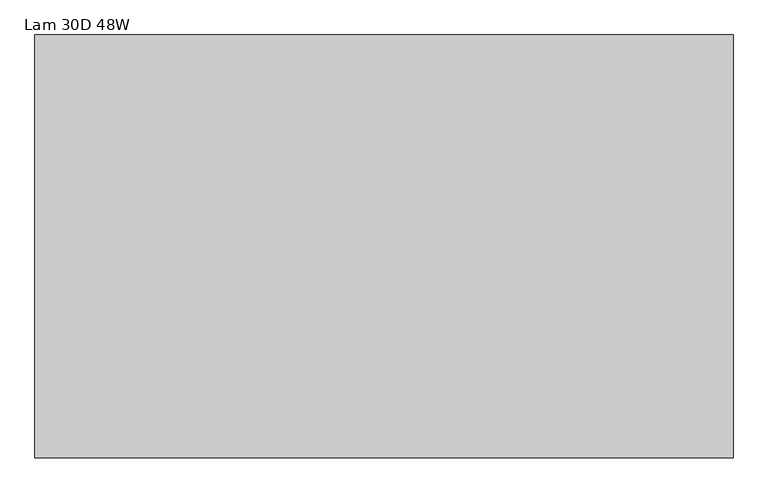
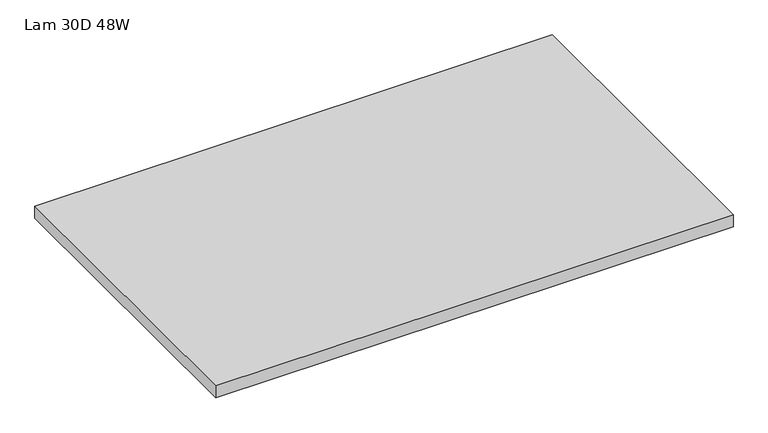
"""IFC4 building model written with IfcOpenShell, lengths in millimetres: furniture geometry, HermanMiller_Ethospace_EWS10_F_Sq-EdgeRectangularSurface_FrameAttached : Lam 30D 48W."""

from ifc_helpers import new_model, si_unit, frame, origin, place, context, project, spatial, polyline, outline, extrude, source, transform, mapped, element, save


def lam_30d_48w_5cb6845a(model_context):
    return source(origin(), model_context, "Body", "SweptSolid", [
        extrude(outline(polyline([(753.5275996, 22.2914812), (-462.6244004, 22.2914812), (-462.6244004, 758.8914812), (753.5275996, 758.8914812), (753.5275996, 22.2914812)])), frame((0.0, 0.0, 706.7296), z_axis=(0.0, 0.0, 1.0), x_axis=(1.0, 0.0, 0.0)), (0.0, 0.0, 1.0), 29.8704),
    ])


if __name__ == "__main__":
    model = new_model("IFC4")
    model_context = context("Model", 3, world=origin())
    ifc_project = project(units=[si_unit("LENGTHUNIT", "METRE", prefix="MILLI")], contexts=[model_context])
    site = spatial("IfcSite", under=ifc_project)
    building = spatial("IfcBuilding", under=site)
    placement = place(None, origin())
    lam_30d_48w_shape = lam_30d_48w_5cb6845a(model_context)
    element("IfcFurniture", 1, ObjectType="HermanMiller_Ethospace_EWS10_F_Sq-EdgeRectangularSurface_FrameAttached : Lam 30D 48W", at=placement, inside=building, context=model_context, shape_type="MappedRepresentation", body=[
        mapped(lam_30d_48w_shape, transform((0.0, 0.0, 0.0), x_axis=(1.0, 0.0, 0.0), y_axis=(0.0, 1.0, 0.0), z_axis=(0.0, 0.0, 1.0))),
    ])
    save(model, "model.ifc")
